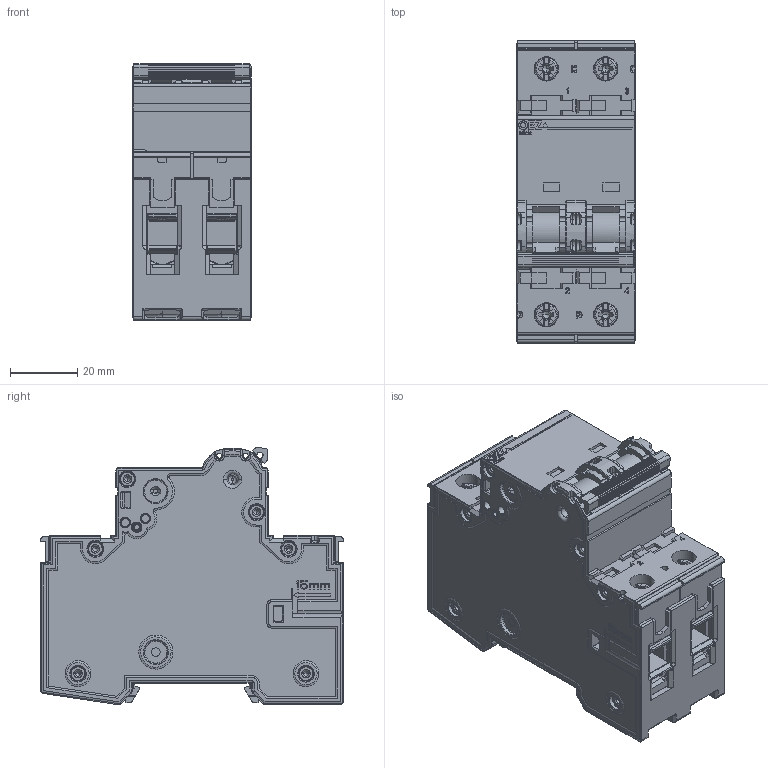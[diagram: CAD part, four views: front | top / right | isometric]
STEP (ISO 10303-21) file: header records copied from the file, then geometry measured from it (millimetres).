
FILE_DESCRIPTION (( 'STEP AP214' ), '1' );
FILE_NAME ('MSN-2_oprava_1.STEP', '2016-02-26T11:02:48', ( '' ), ( '' ), 'SwSTEP 2.0', 'SolidWorks 2011', '' );
FILE_SCHEMA (( 'AUTOMOTIVE_DESIGN' ));
Length unit declared in the file: millimetre
Products named in the file (1): MSN-2_oprava_1
Bounding box: 35.2 x 89.8 x 76.11 mm (x, y, z)
Volume: 169824.4 mm3; surface area: 35539 mm2
Topology: 5 solids, 5 shells, 2901 faces, 8282 edges, 5444 vertices
Faces by surface type: plane 1733, cylinder 583, bspline 236, cone 212, torus 103, sphere 34
Entity records: 141160 total; most frequent: CARTESIAN_POINT 39002, ORIENTED_EDGE 16474, DIRECTION 11728, EDGE_CURVE 8237, VERTEX_POINT 5436, VECTOR 5020, LINE 5020, AXIS2_PLACEMENT_3D 3354
